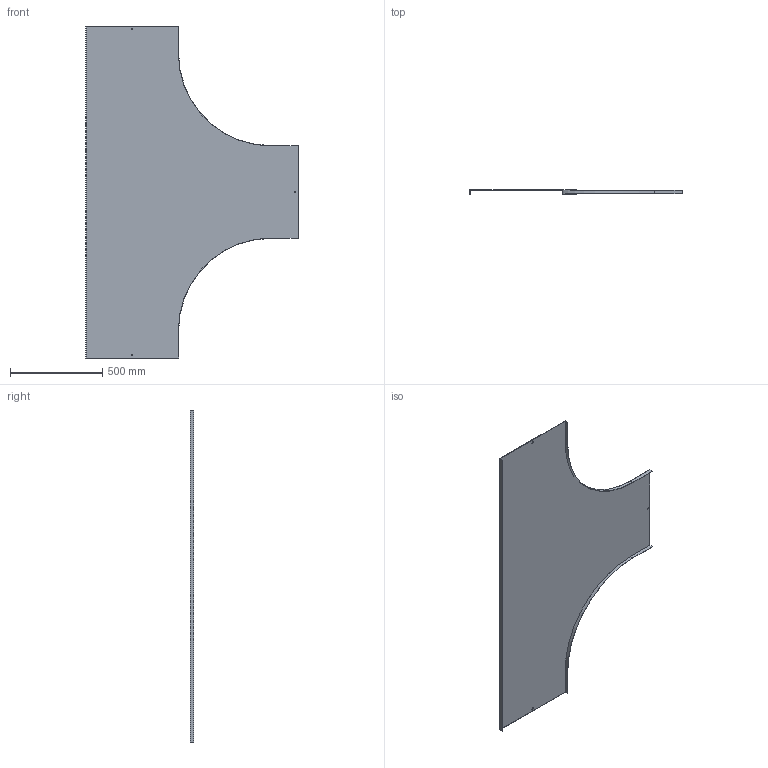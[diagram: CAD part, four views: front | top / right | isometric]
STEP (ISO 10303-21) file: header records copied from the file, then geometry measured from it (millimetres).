
FILE_DESCRIPTION (( 'STEP AP214' ), '1' );
FILE_NAME ('15N5R500.step', '2025-02-21T12:06:05', ( '' ), ( '' ), 'SwSTEP 2.0', 'SolidWorks 2023', '' );
FILE_SCHEMA (( 'AUTOMOTIVE_DESIGN' ));
Length unit declared in the file: millimetre
Products named in the file (1): 15N5R500
Bounding box: 1151.5 x 20 x 1800 mm (x, y, z)
Volume: 2117241.3 mm3; surface area: 2831507.1 mm2
Topology: 1 solids, 1 shells, 34 faces, 96 edges, 64 vertices
Faces by surface type: plane 30, cylinder 4
Entity records: 1123 total; most frequent: CARTESIAN_POINT 195, ORIENTED_EDGE 192, DIRECTION 174, EDGE_CURVE 96, LINE 88, VECTOR 88, VERTEX_POINT 64, AXIS2_PLACEMENT_3D 43
